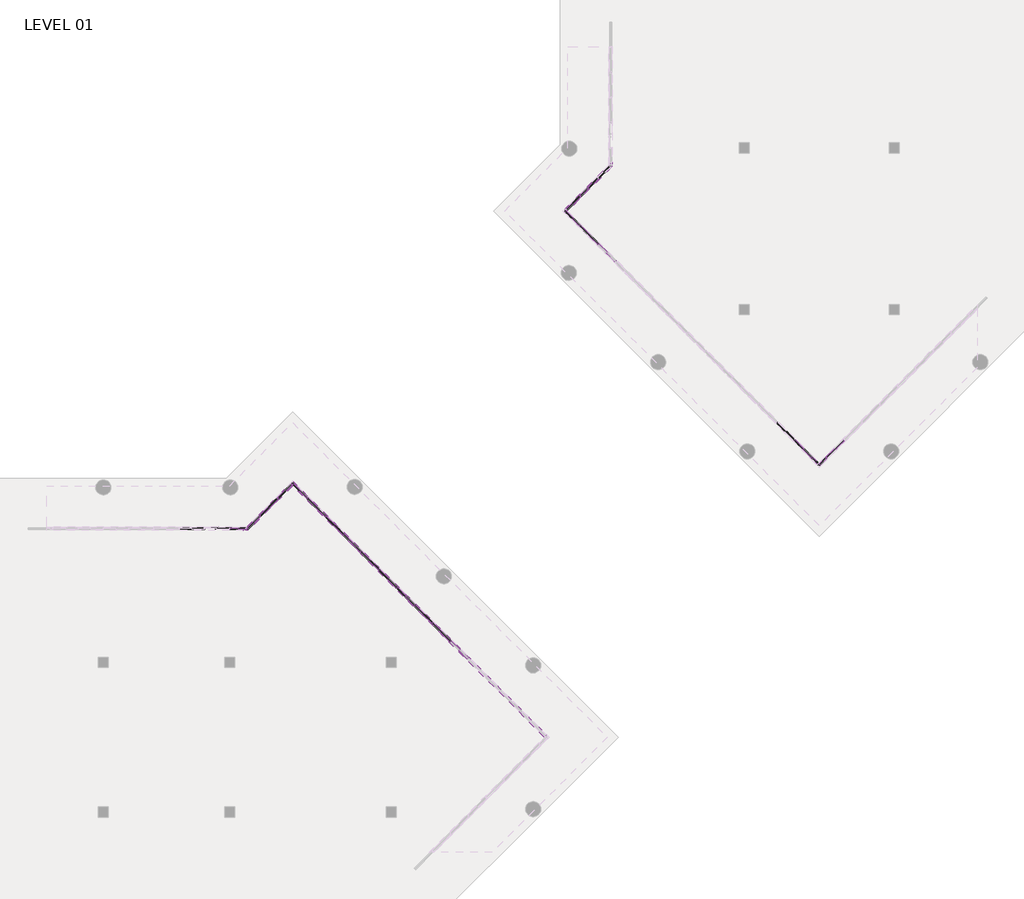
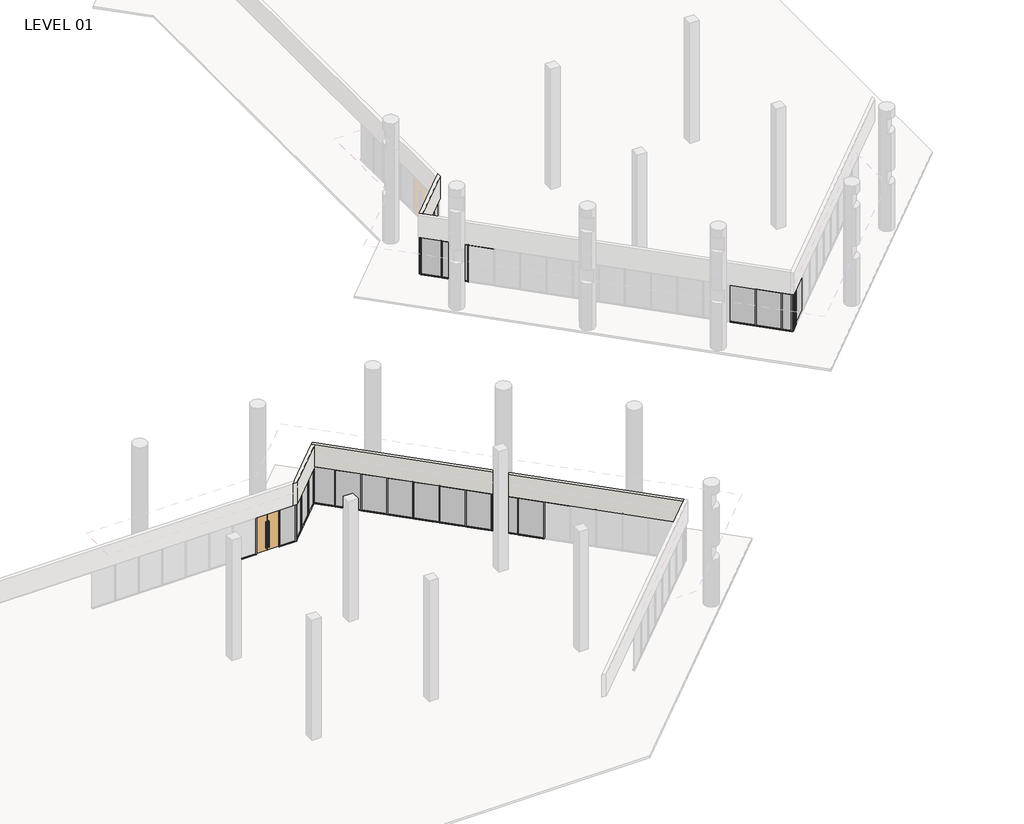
# One storey, part 8 of 24: 77 members, 24 plates, 3 walls, 1 door.
"""IFC4 building model written with IfcOpenShell, lengths in millimetres."""

from ifc_helpers import new_model, si_unit, origin, place, context, project, spatial, faceted_brep, transform, mapped, element, save
from components import curtain_wall_dbl_glass_curtain_wall_dbl_glass_5292c49e, member_5247f267, member_ed5eb8ce, member_1b18ecbc, member_57f2eb73, member_e44af9ab, member_800970d4, member_79e7b9d8, member_b8d22739, member_76371e1d, member_71e516ba, plate_ce959b8d, plate_67294edd, plate_474de82a, plate_87d7c655, plate_43a54168, plate_e0bd23ee, plate_4e8ae714, plate_46a4c48d, plate_9188e7fd, plate_7efc74f4

model = new_model("IFC4")

# Units and contexts
model_context = context("Model", 3, world=origin())
ifc_project = project(units=[si_unit("LENGTHUNIT", "METRE", prefix="MILLI")], contexts=[model_context])

# Site, building, storey
site = spatial("IfcSite", under=ifc_project)
building = spatial("IfcBuilding", under=site)
storey = spatial("IfcBuildingStorey", under=building, Name="LEVEL 01", Elevation=0.0)

# Door
placement = place(None, origin())
curtain_wall_dbl_glass_curtain_wall_dbl_glass_shape = curtain_wall_dbl_glass_curtain_wall_dbl_glass_5292c49e(model_context)
element("IfcDoor", 1, ObjectType="Curtain Wall Dbl Glass : Curtain Wall Dbl Glass", at=placement, inside=storey, context=model_context, shape_type="MappedRepresentation", body=[
    mapped(curtain_wall_dbl_glass_curtain_wall_dbl_glass_shape, transform((40493.95, 23089.2828721, 0.0), x_axis=(-1.0, 0.0, 0.0), y_axis=(0.0, -1.0, 0.0), z_axis=(0.0, 0.0, 1.0))),
])

# Members
member_shape = member_5247f267(model_context)
element("IfcMember", 2, ObjectType="Rectangular Mullion : 2\" x 4.5\" rectangular", at=placement, inside=storey, context=model_context, shape_type="MappedRepresentation", body=[
    mapped(member_shape, transform((54569.0750355, 16323.0133392, 0.0), x_axis=(0.0, 0.0, -1.0), y_axis=(0.7071067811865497, 0.7071067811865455, 0.0), z_axis=(0.7071067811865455, -0.7071067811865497, 0.0))),
])
element("IfcMember", 3, ObjectType="Rectangular Mullion : 2\" x 4.5\" rectangular", at=placement, inside=storey, context=model_context, shape_type="MappedRepresentation", body=[
    mapped(member_shape, transform((52414.1709117, 18477.917463, 0.0), x_axis=(0.0, 0.0, -1.0), y_axis=(0.707106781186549, 0.7071067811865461, 0.0), z_axis=(0.707106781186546, -0.7071067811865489, 0.0))),
])
element("IfcMember", 4, ObjectType="Rectangular Mullion : 2\" x 4.5\" rectangular", at=placement, inside=storey, context=model_context, shape_type="MappedRepresentation", body=[
    mapped(member_shape, transform((50258.9094426, 20633.1789321, 0.0), x_axis=(0.0, 0.0, -1.0), y_axis=(0.707106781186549, 0.7071067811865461, 0.0), z_axis=(0.7071067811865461, -0.707106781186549, 0.0))),
])
element("IfcMember", 5, ObjectType="Rectangular Mullion : 2\" x 4.5\" rectangular", at=placement, inside=storey, context=model_context, shape_type="MappedRepresentation", body=[
    mapped(member_shape, transform((48103.6479736, 22788.4404011, 0.0), x_axis=(0.0, 0.0, -1.0), y_axis=(0.7071067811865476, 0.7071067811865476, 0.0), z_axis=(0.7071067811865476, -0.7071067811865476, 0.0))),
])
element("IfcMember", 6, ObjectType="Rectangular Mullion : 2\" x 4.5\" rectangular", at=placement, inside=storey, context=model_context, shape_type="MappedRepresentation", body=[
    mapped(member_shape, transform((47026.0172391, 23866.0711357, 0.0), x_axis=(0.0, 0.0, -1.0), y_axis=(0.7071067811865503, 0.7071067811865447, 0.0), z_axis=(0.7071067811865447, -0.7071067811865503, 0.0))),
])
element("IfcMember", 7, ObjectType="Rectangular Mullion : 2\" x 4.5\" rectangular", at=placement, inside=storey, context=model_context, shape_type="MappedRepresentation", body=[
    mapped(member_shape, transform((51336.5401772, 19555.5481975, 0.0), x_axis=(0.0, 0.0, -1.0), y_axis=(0.707106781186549, 0.7071067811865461, 0.0), z_axis=(0.707106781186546, -0.7071067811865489, 0.0))),
])
element("IfcMember", 8, ObjectType="Rectangular Mullion : 2\" x 4.5\" rectangular", at=placement, inside=storey, context=model_context, shape_type="MappedRepresentation", body=[
    mapped(member_shape, transform((49181.2787081, 21710.8096666, 0.0), x_axis=(0.0, 0.0, -1.0), y_axis=(0.7071067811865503, 0.7071067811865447, 0.0), z_axis=(0.7071067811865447, -0.7071067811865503, 0.0))),
])
element("IfcMember", 9, ObjectType="Rectangular Mullion : 2\" x 4.5\" rectangular", at=placement, inside=storey, context=model_context, shape_type="MappedRepresentation", body=[
    mapped(member_shape, transform((44147.5963619, 24907.7847366, 0.0), x_axis=(0.0, 0.0, -1.0), y_axis=(-0.7071067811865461, 0.7071067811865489, 0.0), z_axis=(0.7071067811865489, 0.7071067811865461, 0.0))),
])
element("IfcMember", 10, ObjectType="Rectangular Mullion : 2\" x 4.5\" rectangular", at=placement, inside=storey, context=model_context, shape_type="MappedRepresentation", body=[
    mapped(member_shape, transform((39706.55, 23089.2828721, 0.0), x_axis=(0.0, 0.0, -1.0), y_axis=(0.0, 1.0, 0.0), z_axis=(1.0, 0.0, 0.0))),
])
element("IfcMember", 11, ObjectType="Rectangular Mullion : 2\" x 4.5\" rectangular", at=placement, inside=storey, context=model_context, shape_type="MappedRepresentation", body=[
    mapped(member_shape, transform((54604.99606, 16287.0923148, 2590.8), x_axis=(0.0, 0.0, 1.0), y_axis=(0.707106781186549, 0.7071067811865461, 0.0), z_axis=(-0.707106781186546, 0.7071067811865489, 0.0))),
])
element("IfcMember", 12, ObjectType="Rectangular Mullion : 2\" x 4.5\" rectangular", at=placement, inside=storey, context=model_context, shape_type="MappedRepresentation", body=[
    mapped(member_shape, transform((50294.8304671, 20597.2579076, 2590.8), x_axis=(0.0, 0.0, 1.0), y_axis=(0.7071067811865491, 0.707106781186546, 0.0), z_axis=(-0.707106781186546, 0.7071067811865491, 0.0))),
])
element("IfcMember", 13, ObjectType="Rectangular Mullion : 2\" x 4.5\" rectangular", at=placement, inside=storey, context=model_context, shape_type="MappedRepresentation", body=[
    mapped(member_shape, transform((48139.5689981, 22752.5193766, 2590.8), x_axis=(0.0, 0.0, 1.0), y_axis=(0.707106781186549, 0.7071067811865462, 0.0), z_axis=(-0.7071067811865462, 0.707106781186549, 0.0))),
])
element("IfcMember", 14, ObjectType="Rectangular Mullion : 2\" x 4.5\" rectangular", at=placement, inside=storey, context=model_context, shape_type="MappedRepresentation", body=[
    mapped(member_shape, transform((43105.8866519, 23866.0750266, 2590.8), x_axis=(0.0, 0.0, 1.0), y_axis=(-0.7071067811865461, 0.707106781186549, 0.0), z_axis=(-0.7071067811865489, -0.707106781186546, 0.0))),
])
element("IfcMember", 15, ObjectType="Rectangular Mullion : 2\" x 4.5\" rectangular", at=placement, inside=storey, context=model_context, shape_type="MappedRepresentation", body=[
    mapped(member_shape, transform((47061.9382635, 23830.1501112, 2590.8), x_axis=(0.0, 0.0, 1.0), y_axis=(0.7071067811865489, 0.7071067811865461, 0.0), z_axis=(-0.7071067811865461, 0.7071067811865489, 0.0))),
])
element("IfcMember", 16, ObjectType="Rectangular Mullion : 2\" x 4.5\" rectangular", at=placement, inside=storey, context=model_context, shape_type="MappedRepresentation", body=[
    mapped(member_shape, transform((45984.307529, 24907.7808457, 2590.8), x_axis=(0.0, 0.0, 1.0), y_axis=(0.7071067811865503, 0.7071067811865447, 0.0), z_axis=(-0.7071067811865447, 0.7071067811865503, 0.0))),
])
element("IfcMember", 17, ObjectType="Rectangular Mullion : 2\" x 4.5\" rectangular", at=placement, inside=storey, context=model_context, shape_type="MappedRepresentation", body=[
    mapped(member_shape, transform((53527.3653254, 17364.7230493, 2590.8), x_axis=(0.0, 0.0, 1.0), y_axis=(0.707106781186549, 0.7071067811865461, 0.0), z_axis=(-0.707106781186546, 0.7071067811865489, 0.0))),
])
element("IfcMember", 18, ObjectType="Rectangular Mullion : 2\" x 4.5\" rectangular", at=placement, inside=storey, context=model_context, shape_type="MappedRepresentation", body=[
    mapped(member_shape, transform((51372.4612017, 19519.6271731, 2590.8), x_axis=(0.0, 0.0, 1.0), y_axis=(0.7071067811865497, 0.7071067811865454, 0.0), z_axis=(-0.7071067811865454, 0.7071067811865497, 0.0))),
])
element("IfcMember", 19, ObjectType="Rectangular Mullion : 2\" x 4.5\" rectangular", at=placement, inside=storey, context=model_context, shape_type="MappedRepresentation", body=[
    mapped(member_shape, transform((49217.1997326, 21674.8886421, 2590.8), x_axis=(0.0, 0.0, 1.0), y_axis=(0.7071067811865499, 0.7071067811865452, 0.0), z_axis=(-0.7071067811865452, 0.7071067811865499, 0.0))),
])
member_2_shape = member_ed5eb8ce(model_context)
element("IfcMember", 20, ObjectType="Rectangular Mullion : 2\" x 4.5\" rectangular", at=placement, inside=storey, context=model_context, shape_type="MappedRepresentation", body=[
    mapped(member_2_shape, transform((42365.0155219, 23125.2038966, 2590.8), x_axis=(0.0, 0.0, 1.0), y_axis=(-0.7071067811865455, 0.7071067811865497, 0.0), z_axis=(-0.7071067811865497, -0.7071067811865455, 0.0))),
])
element("IfcMember", 21, ObjectType="Rectangular Mullion : 2\" x 4.5\" rectangular", at=placement, inside=storey, context=model_context, shape_type="MappedRepresentation", body=[
    mapped(member_2_shape, transform((41281.35, 23089.2828721, 2590.8), x_axis=(0.0, 0.0, 1.0), y_axis=(0.0, 1.0, 0.0), z_axis=(-1.0, 0.0, 0.0))),
])
element("IfcMember", 22, ObjectType="Rectangular Mullion : 2\" x 4.5\" rectangular", at=placement, inside=storey, context=model_context, shape_type="MappedRepresentation", body=[
    mapped(member_2_shape, transform((43069.9656274, 23830.1540021, 0.0), x_axis=(0.0, 0.0, -1.0), y_axis=(-0.7071067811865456, 0.7071067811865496, 0.0), z_axis=(0.7071067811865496, 0.7071067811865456, 0.0))),
])
element("IfcMember", 23, ObjectType="Rectangular Mullion : 2\" x 4.5\" rectangular", at=placement, inside=storey, context=model_context, shape_type="MappedRepresentation", body=[
    mapped(member_2_shape, transform((42278.2944974, 23089.2828721, 0.0), x_axis=(0.0, 0.0, -1.0), y_axis=(0.0, 1.0, 0.0), z_axis=(1.0, 0.0, 0.0))),
])
member_3_shape = member_1b18ecbc(model_context)
element("IfcMember", 24, ObjectType="Rectangular Mullion : 2\" x 4.5\" rectangular", at=placement, inside=storey, context=model_context, shape_type="MappedRepresentation", body=[
    mapped(member_3_shape, transform((45101.8710245, 25790.2173502, 2590.8), x_axis=(0.0, 0.0, 1.0), y_axis=(0.7071067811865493, 0.7071067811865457, 0.0), z_axis=(-0.7071067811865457, 0.7071067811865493, 0.0))),
])
element("IfcMember", 25, ObjectType="Rectangular Mullion : 2\" x 4.5\" rectangular", at=placement, inside=storey, context=model_context, shape_type="MappedRepresentation", body=[
    mapped(member_3_shape, transform((44183.5173864, 24943.7057611, 2590.8), x_axis=(0.0, 0.0, 1.0), y_axis=(-0.7071067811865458, 0.7071067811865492, 0.0), z_axis=(-0.7071067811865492, -0.7071067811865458, 0.0))),
])
element("IfcMember", 26, ObjectType="Rectangular Mullion : 2\" x 4.5\" rectangular", at=placement, inside=storey, context=model_context, shape_type="MappedRepresentation", body=[
    mapped(member_3_shape, transform((45030.0289755, 25790.2173502, 0.0), x_axis=(0.0, 0.0, -1.0), y_axis=(-0.7071067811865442, 0.7071067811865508, 0.0), z_axis=(0.7071067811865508, 0.7071067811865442, 0.0))),
])
element("IfcMember", 27, ObjectType="Rectangular Mullion : 2\" x 4.5\" rectangular", at=placement, inside=storey, context=model_context, shape_type="MappedRepresentation", body=[
    mapped(member_3_shape, transform((45948.3865045, 24943.7018702, 0.0), x_axis=(0.0, 0.0, -1.0), y_axis=(0.7071067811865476, 0.7071067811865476, 0.0), z_axis=(0.7071067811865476, -0.7071067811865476, 0.0))),
])
member_4_shape = member_57f2eb73(model_context)
element("IfcMember", 28, ObjectType="Rectangular Mullion : 2\" x 4.5\" rectangular", at=placement, inside=storey, context=model_context, shape_type="MappedRepresentation", body=[
    mapped(member_4_shape, transform((52450.0919362, 18441.9964385, 2590.8), x_axis=(0.0, 0.0, 1.0), y_axis=(0.7071067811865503, 0.7071067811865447, 0.0), z_axis=(-0.7071067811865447, 0.7071067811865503, 0.0))),
])
element("IfcMember", 29, ObjectType="Rectangular Mullion : 2\" x 4.5\" rectangular", at=placement, inside=storey, context=model_context, shape_type="MappedRepresentation", body=[
    mapped(member_4_shape, transform((53491.4443009, 17400.6440738, 0.0), x_axis=(0.0, 0.0, -1.0), y_axis=(0.7071067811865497, 0.7071067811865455, 0.0), z_axis=(0.7071067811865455, -0.7071067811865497, 0.0))),
])
member_5_shape = member_e44af9ab(model_context)
element("IfcMember", 30, ObjectType="Rectangular Mullion : 2\" x 4.5\" rectangular", at=placement, inside=storey, context=model_context, shape_type="MappedRepresentation", body=[
    mapped(member_5_shape, transform((54587.0355477, 16305.052827, 0.0), x_axis=(-0.7071067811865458, 0.7071067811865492, 0.0), y_axis=(0.7071067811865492, 0.7071067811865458, 0.0), z_axis=(0.0, 0.0, -1.0))),
])
element("IfcMember", 31, ObjectType="Rectangular Mullion : 2\" x 4.5\" rectangular", at=placement, inside=storey, context=model_context, shape_type="MappedRepresentation", body=[
    mapped(member_5_shape, transform((52432.1314239, 18459.9569508, 0.0), x_axis=(-0.7071067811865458, 0.7071067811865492, 0.0), y_axis=(0.7071067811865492, 0.7071067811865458, 0.0), z_axis=(0.0, 0.0, -1.0))),
])
element("IfcMember", 32, ObjectType="Rectangular Mullion : 2\" x 4.5\" rectangular", at=placement, inside=storey, context=model_context, shape_type="MappedRepresentation", body=[
    mapped(member_5_shape, transform((50276.8699549, 20615.2184198, 0.0), x_axis=(-0.7071067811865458, 0.7071067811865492, 0.0), y_axis=(0.7071067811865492, 0.7071067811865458, 0.0), z_axis=(0.0, 0.0, -1.0))),
])
element("IfcMember", 33, ObjectType="Rectangular Mullion : 2\" x 4.5\" rectangular", at=placement, inside=storey, context=model_context, shape_type="MappedRepresentation", body=[
    mapped(member_5_shape, transform((48121.6084858, 22770.4798889, 0.0), x_axis=(-0.7071067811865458, 0.7071067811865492, 0.0), y_axis=(0.7071067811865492, 0.7071067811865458, 0.0), z_axis=(0.0, 0.0, -1.0))),
])
element("IfcMember", 34, ObjectType="Rectangular Mullion : 2\" x 4.5\" rectangular", at=placement, inside=storey, context=model_context, shape_type="MappedRepresentation", body=[
    mapped(member_5_shape, transform((43087.9261396, 23848.1145143, 0.0), x_axis=(-0.7071067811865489, -0.7071067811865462, 0.0), y_axis=(-0.7071067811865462, 0.7071067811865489, 0.0), z_axis=(0.0, 0.0, -1.0))),
])
element("IfcMember", 35, ObjectType="Rectangular Mullion : 2\" x 4.5\" rectangular", at=placement, inside=storey, context=model_context, shape_type="MappedRepresentation", body=[
    mapped(member_5_shape, transform((47043.9777513, 23848.1106234, 0.0), x_axis=(-0.7071067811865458, 0.7071067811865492, 0.0), y_axis=(0.7071067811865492, 0.7071067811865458, 0.0), z_axis=(0.0, 0.0, -1.0))),
])
element("IfcMember", 36, ObjectType="Rectangular Mullion : 2\" x 4.5\" rectangular", at=placement, inside=storey, context=model_context, shape_type="MappedRepresentation", body=[
    mapped(member_5_shape, transform((45966.3470168, 24925.7413579, 0.0), x_axis=(-0.7071067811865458, 0.7071067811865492, 0.0), y_axis=(0.7071067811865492, 0.7071067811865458, 0.0), z_axis=(0.0, 0.0, -1.0))),
])
element("IfcMember", 37, ObjectType="Rectangular Mullion : 2\" x 4.5\" rectangular", at=placement, inside=storey, context=model_context, shape_type="MappedRepresentation", body=[
    mapped(member_5_shape, transform((53509.4048132, 17382.6835615, 0.0), x_axis=(-0.7071067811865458, 0.7071067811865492, 0.0), y_axis=(0.7071067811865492, 0.7071067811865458, 0.0), z_axis=(0.0, 0.0, -1.0))),
])
element("IfcMember", 38, ObjectType="Rectangular Mullion : 2\" x 4.5\" rectangular", at=placement, inside=storey, context=model_context, shape_type="MappedRepresentation", body=[
    mapped(member_5_shape, transform((51354.5006894, 19537.5876853, 0.0), x_axis=(-0.7071067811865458, 0.7071067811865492, 0.0), y_axis=(0.7071067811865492, 0.7071067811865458, 0.0), z_axis=(0.0, 0.0, -1.0))),
])
element("IfcMember", 39, ObjectType="Rectangular Mullion : 2\" x 4.5\" rectangular", at=placement, inside=storey, context=model_context, shape_type="MappedRepresentation", body=[
    mapped(member_5_shape, transform((49199.2392204, 21692.8491544, 0.0), x_axis=(-0.7071067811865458, 0.7071067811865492, 0.0), y_axis=(0.7071067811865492, 0.7071067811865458, 0.0), z_axis=(0.0, 0.0, -1.0))),
])
element("IfcMember", 40, ObjectType="Rectangular Mullion : 2\" x 4.5\" rectangular", at=placement, inside=storey, context=model_context, shape_type="MappedRepresentation", body=[
    mapped(member_5_shape, transform((44165.5568742, 24925.7452489, 0.0), x_axis=(-0.7071067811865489, -0.7071067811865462, 0.0), y_axis=(-0.7071067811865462, 0.7071067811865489, 0.0), z_axis=(0.0, 0.0, -1.0))),
])
element("IfcMember", 41, ObjectType="Rectangular Mullion : 2\" x 4.5\" rectangular", at=placement, inside=storey, context=model_context, shape_type="MappedRepresentation", body=[
    mapped(member_5_shape, transform((41255.95, 23089.2828721, 0.0), x_axis=(-1.0, 0.0, 0.0), y_axis=(0.0, 1.0, 0.0), z_axis=(0.0, 0.0, -1.0))),
])
element("IfcMember", 42, ObjectType="Rectangular Mullion : 2\" x 4.5\" rectangular", at=placement, inside=storey, context=model_context, shape_type="MappedRepresentation", body=[
    mapped(member_5_shape, transform((39731.95, 23089.2828721, 0.0), x_axis=(-1.0, 0.0, 0.0), y_axis=(0.0, 1.0, 0.0), z_axis=(0.0, 0.0, -1.0))),
])
member_6_shape = member_800970d4(model_context)
element("IfcMember", 43, ObjectType="Rectangular Mullion : 2\" x 4.5\" rectangular", at=placement, inside=storey, context=model_context, shape_type="MappedRepresentation", body=[
    mapped(member_6_shape, transform((45065.95, 25826.1383747, 0.0), x_axis=(-0.7071067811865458, 0.7071067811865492, 0.0), y_axis=(0.7071067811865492, 0.7071067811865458, 0.0), z_axis=(0.0, 0.0, -1.0))),
])
element("IfcMember", 44, ObjectType="Rectangular Mullion : 2\" x 4.5\" rectangular", at=placement, inside=storey, context=model_context, shape_type="MappedRepresentation", body=[
    mapped(member_6_shape, transform((42329.0944974, 23089.2828721, 0.0), x_axis=(-0.7071067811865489, -0.7071067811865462, 0.0), y_axis=(-0.7071067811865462, 0.7071067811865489, 0.0), z_axis=(0.0, 0.0, -1.0))),
])
element("IfcMember", 45, ObjectType="Rectangular Mullion : 2\" x 4.5\" rectangular", at=placement, inside=storey, context=model_context, shape_type="MappedRepresentation", body=[
    mapped(member_6_shape, transform((45065.95, 25826.1383747, 2590.8), x_axis=(0.7071067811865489, 0.7071067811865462, 0.0), y_axis=(-0.7071067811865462, 0.7071067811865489, 0.0), z_axis=(0.0, 0.0, 1.0))),
])
element("IfcMember", 46, ObjectType="Rectangular Mullion : 2\" x 4.5\" rectangular", at=placement, inside=storey, context=model_context, shape_type="MappedRepresentation", body=[
    mapped(member_6_shape, transform((42329.0944974, 23089.2828721, 2590.8), x_axis=(1.0, 0.0, 0.0), y_axis=(0.0, 1.0, 0.0), z_axis=(0.0, 0.0, 1.0))),
])
element("IfcMember", 47, ObjectType="Rectangular Mullion : 2\" x 4.5\" rectangular", at=placement, inside=storey, context=model_context, shape_type="MappedRepresentation", body=[
    mapped(member_shape, transform((75367.3482119, 28428.3985904, 2590.8), x_axis=(0.0, 0.0, 1.0), y_axis=(0.7071067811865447, 0.7071067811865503, 0.0), z_axis=(-0.7071067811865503, 0.7071067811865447, 0.0))),
])
element("IfcMember", 48, ObjectType="Rectangular Mullion : 2\" x 4.5\" rectangular", at=placement, inside=storey, context=model_context, shape_type="MappedRepresentation", body=[
    mapped(member_shape, transform((63513.7674773, 40281.979325, 2590.8), x_axis=(0.0, 0.0, 1.0), y_axis=(0.7071067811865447, 0.7071067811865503, 0.0), z_axis=(-0.7071067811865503, 0.7071067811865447, 0.0))),
])
element("IfcMember", 49, ObjectType="Rectangular Mullion : 2\" x 4.5\" rectangular", at=placement, inside=storey, context=model_context, shape_type="MappedRepresentation", body=[
    mapped(member_shape, transform((62436.1367428, 41359.6100595, 2590.8), x_axis=(0.0, 0.0, 1.0), y_axis=(0.7071067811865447, 0.7071067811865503, 0.0), z_axis=(-0.7071067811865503, 0.7071067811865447, 0.0))),
])
element("IfcMember", 50, ObjectType="Rectangular Mullion : 2\" x 4.5\" rectangular", at=placement, inside=storey, context=model_context, shape_type="MappedRepresentation", body=[
    mapped(member_shape, transform((77290.4828382, 27386.5102078, 2590.8), x_axis=(0.0, 0.0, 1.0), y_axis=(-0.7071067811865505, 0.7071067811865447, 0.0), z_axis=(-0.7071067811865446, -0.7071067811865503, 0.0))),
])
element("IfcMember", 51, ObjectType="Rectangular Mullion : 2\" x 4.5\" rectangular", at=placement, inside=storey, context=model_context, shape_type="MappedRepresentation", body=[
    mapped(member_2_shape, transform((63513.7635864, 44273.9519611, 0.0), x_axis=(0.0, 0.0, -1.0), y_axis=(0.7071067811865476, -0.7071067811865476, 0.0), z_axis=(-0.7071067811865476, -0.7071067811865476, 0.0))),
])
element("IfcMember", 52, ObjectType="Rectangular Mullion : 2\" x 4.5\" rectangular", at=placement, inside=storey, context=model_context, shape_type="MappedRepresentation", body=[
    mapped(member_shape, transform((75331.4271874, 28464.3196149, 0.0), x_axis=(0.0, 0.0, -1.0), y_axis=(0.7071067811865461, 0.7071067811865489, 0.0), z_axis=(0.7071067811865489, -0.7071067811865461, 0.0))),
])
element("IfcMember", 53, ObjectType="Rectangular Mullion : 2\" x 4.5\" rectangular", at=placement, inside=storey, context=model_context, shape_type="MappedRepresentation", body=[
    mapped(member_shape, transform((63477.8464529, 40317.9003495, 0.0), x_axis=(0.0, 0.0, -1.0), y_axis=(0.7071067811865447, 0.7071067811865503, 0.0), z_axis=(0.7071067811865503, -0.7071067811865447, 0.0))),
])
element("IfcMember", 54, ObjectType="Rectangular Mullion : 2\" x 4.5\" rectangular", at=placement, inside=storey, context=model_context, shape_type="MappedRepresentation", body=[
    mapped(member_shape, transform((76409.0579219, 27386.6888804, 0.0), x_axis=(0.0, 0.0, -1.0), y_axis=(0.7071067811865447, 0.7071067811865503, 0.0), z_axis=(0.7071067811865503, -0.7071067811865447, 0.0))),
])
element("IfcMember", 55, ObjectType="Rectangular Mullion : 2\" x 4.5\" rectangular", at=placement, inside=storey, context=model_context, shape_type="MappedRepresentation", body=[
    mapped(member_5_shape, transform((75349.3876996, 28446.3591027, 0.0), x_axis=(-0.7071067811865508, 0.7071067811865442, 0.0), y_axis=(0.7071067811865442, 0.7071067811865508, 0.0), z_axis=(0.0, 0.0, -1.0))),
])
element("IfcMember", 56, ObjectType="Rectangular Mullion : 2\" x 4.5\" rectangular", at=placement, inside=storey, context=model_context, shape_type="MappedRepresentation", body=[
    mapped(member_5_shape, transform((63495.8030742, 44255.9914489, 0.0), x_axis=(0.7071067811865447, 0.7071067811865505, 0.0), y_axis=(0.7071067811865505, -0.7071067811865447, 0.0), z_axis=(0.0, 0.0, -1.0))),
])
element("IfcMember", 57, ObjectType="Rectangular Mullion : 2\" x 4.5\" rectangular", at=placement, inside=storey, context=model_context, shape_type="MappedRepresentation", body=[
    mapped(member_5_shape, transform((63495.8069651, 40299.9398372, 0.0), x_axis=(-0.7071067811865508, 0.7071067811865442, 0.0), y_axis=(0.7071067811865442, 0.7071067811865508, 0.0), z_axis=(0.0, 0.0, -1.0))),
])
element("IfcMember", 58, ObjectType="Rectangular Mullion : 2\" x 4.5\" rectangular", at=placement, inside=storey, context=model_context, shape_type="MappedRepresentation", body=[
    mapped(member_5_shape, transform((62418.1762306, 41377.5705717, 0.0), x_axis=(-0.7071067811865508, 0.7071067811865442, 0.0), y_axis=(0.7071067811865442, 0.7071067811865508, 0.0), z_axis=(0.0, 0.0, -1.0))),
])
element("IfcMember", 59, ObjectType="Rectangular Mullion : 2\" x 4.5\" rectangular", at=placement, inside=storey, context=model_context, shape_type="MappedRepresentation", body=[
    mapped(member_5_shape, transform((76427.0184342, 27368.7283682, 0.0), x_axis=(-0.7071067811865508, 0.7071067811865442, 0.0), y_axis=(0.7071067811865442, 0.7071067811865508, 0.0), z_axis=(0.0, 0.0, -1.0))),
])
element("IfcMember", 60, ObjectType="Rectangular Mullion : 2\" x 4.5\" rectangular", at=placement, inside=storey, context=model_context, shape_type="MappedRepresentation", body=[
    mapped(member_5_shape, transform((77272.522326, 27368.5496955, 0.0), x_axis=(-0.7071067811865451, -0.7071067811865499, 0.0), y_axis=(-0.7071067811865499, 0.7071067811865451, 0.0), z_axis=(0.0, 0.0, -1.0))),
])
element("IfcMember", 61, ObjectType="Rectangular Mullion : 2\" x 4.5\" rectangular", at=placement, inside=storey, context=model_context, shape_type="MappedRepresentation", body=[
    mapped(member_5_shape, transform((62418.1723396, 43178.3607144, 0.0), x_axis=(0.7071067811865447, 0.7071067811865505, 0.0), y_axis=(0.7071067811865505, -0.7071067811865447, 0.0), z_axis=(0.0, 0.0, -1.0))),
])
element("IfcMember", 62, ObjectType="Rectangular Mullion : 2\" x 4.5\" rectangular", at=placement, inside=storey, context=model_context, shape_type="MappedRepresentation", body=[
    mapped(member_6_shape, transform((76849.8597164, 26945.8870859, 0.0), x_axis=(-0.7071067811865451, -0.7071067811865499, 0.0), y_axis=(-0.7071067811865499, 0.7071067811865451, 0.0), z_axis=(0.0, 0.0, -1.0))),
])
element("IfcMember", 63, ObjectType="Rectangular Mullion : 2\" x 4.5\" rectangular", at=placement, inside=storey, context=model_context, shape_type="MappedRepresentation", body=[
    mapped(member_6_shape, transform((61517.7792138, 42277.9675885, 0.0), x_axis=(-0.7071067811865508, 0.7071067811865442, 0.0), y_axis=(0.7071067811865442, 0.7071067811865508, 0.0), z_axis=(0.0, 0.0, -1.0))),
])
element("IfcMember", 64, ObjectType="Rectangular Mullion : 2\" x 4.5\" rectangular", at=placement, inside=storey, context=model_context, shape_type="MappedRepresentation", body=[
    mapped(member_6_shape, transform((76849.8597164, 26945.8870859, 2590.8), x_axis=(0.7071067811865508, -0.7071067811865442, 0.0), y_axis=(0.7071067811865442, 0.7071067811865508, 0.0), z_axis=(0.0, 0.0, 1.0))),
])
element("IfcMember", 65, ObjectType="Rectangular Mullion : 2\" x 4.5\" rectangular", at=placement, inside=storey, context=model_context, shape_type="MappedRepresentation", body=[
    mapped(member_6_shape, transform((61517.7792138, 42277.9675885, 2590.8), x_axis=(-0.7071067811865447, -0.7071067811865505, 0.0), y_axis=(0.7071067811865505, -0.7071067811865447, 0.0), z_axis=(0.0, 0.0, 1.0))),
])
member_7_shape = member_79e7b9d8(model_context)
element("IfcMember", 66, ObjectType="Rectangular Mullion : 2\" x 4.5\" rectangular", at=placement, inside=storey, context=model_context, shape_type="MappedRepresentation", body=[
    mapped(member_7_shape, transform((76885.7807409, 26981.8081104, 2590.8), x_axis=(0.0, 0.0, 1.0), y_axis=(-0.7071067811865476, 0.7071067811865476, 0.0), z_axis=(-0.7071067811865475, -0.7071067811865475, 0.0))),
])
element("IfcMember", 67, ObjectType="Rectangular Mullion : 2\" x 4.5\" rectangular", at=placement, inside=storey, context=model_context, shape_type="MappedRepresentation", body=[
    mapped(member_7_shape, transform((77254.5618138, 27350.5891833, 0.0), x_axis=(0.0, 0.0, -1.0), y_axis=(-0.7071067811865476, 0.7071067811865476, 0.0), z_axis=(0.7071067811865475, 0.7071067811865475, 0.0))),
])
element("IfcMember", 68, ObjectType="Rectangular Mullion : 2\" x 4.5\" rectangular", at=placement, inside=storey, context=model_context, shape_type="MappedRepresentation", body=[
    mapped(member_3_shape, transform((61553.7002383, 42242.046564, 2590.8), x_axis=(0.0, 0.0, 1.0), y_axis=(0.7071067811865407, 0.7071067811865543, 0.0), z_axis=(-0.7071067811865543, 0.7071067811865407, 0.0))),
])
element("IfcMember", 69, ObjectType="Rectangular Mullion : 2\" x 4.5\" rectangular", at=placement, inside=storey, context=model_context, shape_type="MappedRepresentation", body=[
    mapped(member_3_shape, transform((62400.2118274, 43160.4002021, 2590.8), x_axis=(0.0, 0.0, 1.0), y_axis=(0.7071067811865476, -0.7071067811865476, 0.0), z_axis=(0.7071067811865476, 0.7071067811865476, 0.0))),
])
member_8_shape = member_b8d22739(model_context)
element("IfcMember", 70, ObjectType="Rectangular Mullion : 2\" x 4.5\" rectangular", at=placement, inside=storey, context=model_context, shape_type="MappedRepresentation", body=[
    mapped(member_8_shape, transform((76813.9386919, 26981.8081104, 0.0), x_axis=(0.0, 0.0, -1.0), y_axis=(0.7071067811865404, 0.7071067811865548, 0.0), z_axis=(0.7071067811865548, -0.7071067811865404, 0.0))),
])
element("IfcMember", 71, ObjectType="Rectangular Mullion : 2\" x 4.5\" rectangular", at=placement, inside=storey, context=model_context, shape_type="MappedRepresentation", body=[
    mapped(member_3_shape, transform((61553.7002383, 42313.888613, 0.0), x_axis=(0.0, 0.0, -1.0), y_axis=(0.7071067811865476, -0.7071067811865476, 0.0), z_axis=(-0.7071067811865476, -0.7071067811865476, 0.0))),
])
element("IfcMember", 72, ObjectType="Rectangular Mullion : 2\" x 4.5\" rectangular", at=placement, inside=storey, context=model_context, shape_type="MappedRepresentation", body=[
    mapped(member_3_shape, transform((62400.2157183, 41395.531084, 0.0), x_axis=(0.0, 0.0, -1.0), y_axis=(0.7071067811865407, 0.7071067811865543, 0.0), z_axis=(0.7071067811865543, -0.7071067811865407, 0.0))),
])
element("IfcMember", 73, ObjectType="Rectangular Mullion : 2\" x 4.5\" rectangular", at=placement, inside=storey, context=model_context, shape_type="MappedRepresentation", body=[
    mapped(member_8_shape, transform((76444.9789464, 27350.7678559, 2590.8), x_axis=(0.0, 0.0, 1.0), y_axis=(0.7071067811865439, 0.7071067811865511, 0.0), z_axis=(-0.7071067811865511, 0.7071067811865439, 0.0))),
])
member_9_shape = member_76371e1d(model_context)
element("IfcMember", 74, ObjectType="Rectangular Mullion : 2\" x 4.5\" rectangular", at=placement, inside=storey, context=model_context, shape_type="MappedRepresentation", body=[
    mapped(member_9_shape, transform((63477.8425619, 44238.0309367, 2590.8), x_axis=(0.0, 0.0, 1.0), y_axis=(0.7071067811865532, -0.7071067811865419, 0.0), z_axis=(0.7071067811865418, 0.7071067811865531, 0.0))),
])
member_10_shape = member_71e516ba(model_context)
element("IfcMember", 75, ObjectType="Rectangular Mullion : 2\" x 4.5\" rectangular", at=placement, inside=storey, context=model_context, shape_type="MappedRepresentation", body=[
    mapped(member_10_shape, transform((62436.1328519, 43196.3212266, 0.0), x_axis=(0.0, 0.0, -1.0), y_axis=(0.7071067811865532, -0.7071067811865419, 0.0), z_axis=(-0.7071067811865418, -0.7071067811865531, 0.0))),
])
element("IfcMember", 76, ObjectType="Rectangular Mullion : 2\" x 4.5\" rectangular", at=placement, inside=storey, context=model_context, shape_type="MappedRepresentation", body=[
    mapped(member_10_shape, transform((62868.2464529, 43628.4348276, 2590.8), x_axis=(0.0, 0.0, 1.0), y_axis=(0.707106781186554, -0.707106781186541, 0.0), z_axis=(0.707106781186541, 0.707106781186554, 0.0))),
])
element("IfcMember", 77, ObjectType="Rectangular Mullion : 2\" x 4.5\" rectangular", at=placement, inside=storey, context=model_context, shape_type="MappedRepresentation", body=[
    mapped(member_9_shape, transform((62904.1674773, 43664.3558521, 0.0), x_axis=(0.0, 0.0, -1.0), y_axis=(0.7071067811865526, -0.7071067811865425, 0.0), z_axis=(-0.7071067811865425, -0.7071067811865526, 0.0))),
])
element("IfcMember", 78, ObjectType="Rectangular Mullion : 2\" x 4.5\" rectangular", at=placement, inside=storey, context=model_context, shape_type="MappedRepresentation", body=[
    mapped(member_5_shape, transform((62886.2069651, 43646.3953398, 0.0), x_axis=(0.7071067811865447, 0.7071067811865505, 0.0), y_axis=(0.7071067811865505, -0.7071067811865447, 0.0), z_axis=(0.0, 0.0, -1.0))),
])

# Plates
plate_shape = plate_ce959b8d(model_context)
element("IfcPlate", 79, ObjectType="System Panel : 1/4\" Glass", at=placement, inside=storey, context=model_context, shape_type="MappedRepresentation", body=[
    mapped(plate_shape, transform((41779.8222487, 23089.2828721, 50.8), x_axis=(-1.0, 0.0, 0.0), y_axis=(0.0, -1.0, 0.0), z_axis=(0.0, 0.0, 1.0))),
])
plate_2_shape = plate_67294edd(model_context)
element("IfcPlate", 80, ObjectType="System Panel : 1/4\" Glass", at=placement, inside=storey, context=model_context, shape_type="MappedRepresentation", body=[
    mapped(plate_2_shape, transform((54048.2201805, 16843.8681943, 50.8), x_axis=(-0.7071067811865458, 0.7071067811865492, 0.0), y_axis=(-0.7071067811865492, -0.7071067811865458, 0.0), z_axis=(0.0, 0.0, 1.0))),
])
element("IfcPlate", 81, ObjectType="System Panel : 1/4\" Glass", at=placement, inside=storey, context=model_context, shape_type="MappedRepresentation", body=[
    mapped(plate_2_shape, transform((51893.3160567, 18998.772318, 50.8), x_axis=(-0.7071067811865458, 0.7071067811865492, 0.0), y_axis=(-0.7071067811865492, -0.7071067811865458, 0.0), z_axis=(0.0, 0.0, 1.0))),
])
element("IfcPlate", 82, ObjectType="System Panel : 1/4\" Glass", at=placement, inside=storey, context=model_context, shape_type="MappedRepresentation", body=[
    mapped(plate_2_shape, transform((49738.0545876, 21154.0337871, 50.8), x_axis=(-0.7071067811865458, 0.7071067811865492, 0.0), y_axis=(-0.7071067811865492, -0.7071067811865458, 0.0), z_axis=(0.0, 0.0, 1.0))),
])
element("IfcPlate", 83, ObjectType="System Panel : 1/4\" Glass", at=placement, inside=storey, context=model_context, shape_type="MappedRepresentation", body=[
    mapped(plate_2_shape, transform((47582.7931186, 23309.2952562, 50.8), x_axis=(-0.7071067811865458, 0.7071067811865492, 0.0), y_axis=(-0.7071067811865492, -0.7071067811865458, 0.0), z_axis=(0.0, 0.0, 1.0))),
])
element("IfcPlate", 84, ObjectType="System Panel : 1/4\" Glass", at=placement, inside=storey, context=model_context, shape_type="MappedRepresentation", body=[
    mapped(plate_2_shape, transform((46505.162384, 24386.9259907, 50.8), x_axis=(-0.7071067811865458, 0.7071067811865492, 0.0), y_axis=(-0.7071067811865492, -0.7071067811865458, 0.0), z_axis=(0.0, 0.0, 1.0))),
])
element("IfcPlate", 85, ObjectType="System Panel : 1/4\" Glass", at=placement, inside=storey, context=model_context, shape_type="MappedRepresentation", body=[
    mapped(plate_2_shape, transform((50815.6853222, 20076.4030526, 50.8), x_axis=(-0.7071067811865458, 0.7071067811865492, 0.0), y_axis=(-0.7071067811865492, -0.7071067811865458, 0.0), z_axis=(0.0, 0.0, 1.0))),
])
element("IfcPlate", 86, ObjectType="System Panel : 1/4\" Glass", at=placement, inside=storey, context=model_context, shape_type="MappedRepresentation", body=[
    mapped(plate_2_shape, transform((48660.4238531, 22231.6645216, 50.8), x_axis=(-0.7071067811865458, 0.7071067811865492, 0.0), y_axis=(-0.7071067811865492, -0.7071067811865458, 0.0), z_axis=(0.0, 0.0, 1.0))),
])
element("IfcPlate", 87, ObjectType="System Panel : 1/4\" Glass", at=placement, inside=storey, context=model_context, shape_type="MappedRepresentation", body=[
    mapped(plate_2_shape, transform((43626.7415069, 24386.9298816, 50.8), x_axis=(-0.7071067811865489, -0.7071067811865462, 0.0), y_axis=(0.7071067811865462, -0.7071067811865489, 0.0), z_axis=(0.0, 0.0, 1.0))),
])
plate_3_shape = plate_474de82a(model_context)
element("IfcPlate", 88, ObjectType="System Panel : 1/4\" Glass", at=placement, inside=storey, context=model_context, shape_type="MappedRepresentation", body=[
    mapped(plate_3_shape, transform((45525.1287645, 25366.9596102, 50.8), x_axis=(-0.7071067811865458, 0.7071067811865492, 0.0), y_axis=(-0.7071067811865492, -0.7071067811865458, 0.0), z_axis=(0.0, 0.0, 1.0))),
])
plate_4_shape = plate_87d7c655(model_context)
element("IfcPlate", 89, ObjectType="System Panel : 1/4\" Glass", at=placement, inside=storey, context=model_context, shape_type="MappedRepresentation", body=[
    mapped(plate_4_shape, transform((52970.7681186, 17921.3202562, 50.8), x_axis=(-0.7071067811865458, 0.7071067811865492, 0.0), y_axis=(-0.7071067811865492, -0.7071067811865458, 0.0), z_axis=(0.0, 0.0, 1.0))),
])
plate_5_shape = plate_43a54168(model_context)
element("IfcPlate", 90, ObjectType="System Panel : 1/4\" Glass", at=placement, inside=storey, context=model_context, shape_type="MappedRepresentation", body=[
    mapped(plate_5_shape, transform((42717.4905746, 23477.6789494, 50.8), x_axis=(-0.7071067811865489, -0.7071067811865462, 0.0), y_axis=(0.7071067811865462, -0.7071067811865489, 0.0), z_axis=(0.0, 0.0, 1.0))),
])
plate_6_shape = plate_e0bd23ee(model_context)
element("IfcPlate", 91, ObjectType="System Panel : 1/4\" Glass", at=placement, inside=storey, context=model_context, shape_type="MappedRepresentation", body=[
    mapped(plate_6_shape, transform((44606.773181, 25366.9615557, 50.8), x_axis=(-0.7071067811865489, -0.7071067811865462, 0.0), y_axis=(0.7071067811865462, -0.7071067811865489, 0.0), z_axis=(0.0, 0.0, 1.0))),
])
element("IfcPlate", 92, ObjectType="System Panel : 1/4\" Glass", at=placement, inside=storey, context=model_context, shape_type="MappedRepresentation", body=[
    mapped(plate_2_shape, transform((74810.5723324, 28985.17447, 50.8), x_axis=(-0.7071067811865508, 0.7071067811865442, 0.0), y_axis=(-0.7071067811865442, -0.7071067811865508, 0.0), z_axis=(0.0, 0.0, 1.0))),
])
element("IfcPlate", 93, ObjectType="System Panel : 1/4\" Glass", at=placement, inside=storey, context=model_context, shape_type="MappedRepresentation", body=[
    mapped(plate_2_shape, transform((62956.9915978, 40838.7552045, 50.8), x_axis=(-0.7071067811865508, 0.7071067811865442, 0.0), y_axis=(-0.7071067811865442, -0.7071067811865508, 0.0), z_axis=(0.0, 0.0, 1.0))),
])
element("IfcPlate", 94, ObjectType="System Panel : 1/4\" Glass", at=placement, inside=storey, context=model_context, shape_type="MappedRepresentation", body=[
    mapped(plate_2_shape, transform((77811.3376933, 27907.3650628, 50.8), x_axis=(-0.7071067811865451, -0.7071067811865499, 0.0), y_axis=(0.7071067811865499, -0.7071067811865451, 0.0), z_axis=(0.0, 0.0, 1.0))),
])
element("IfcPlate", 95, ObjectType="System Panel : 1/4\" Glass", at=placement, inside=storey, context=model_context, shape_type="MappedRepresentation", body=[
    mapped(plate_2_shape, transform((75888.2030669, 27907.5437354, 50.8), x_axis=(-0.7071067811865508, 0.7071067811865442, 0.0), y_axis=(-0.7071067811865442, -0.7071067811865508, 0.0), z_axis=(0.0, 0.0, 1.0))),
])
element("IfcPlate", 96, ObjectType="System Panel : 1/4\" Glass", at=placement, inside=storey, context=model_context, shape_type="MappedRepresentation", body=[
    mapped(plate_5_shape, transform((63866.2386392, 44626.4270139, 50.8), x_axis=(0.7071067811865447, 0.7071067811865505, 0.0), y_axis=(-0.7071067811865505, 0.7071067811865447, 0.0), z_axis=(0.0, 0.0, 1.0))),
])
plate_7_shape = plate_4e8ae714(model_context)
element("IfcPlate", 97, ObjectType="System Panel : 1/4\" Glass", at=placement, inside=storey, context=model_context, shape_type="MappedRepresentation", body=[
    mapped(plate_7_shape, transform((76629.4588192, 27166.2879832, 50.8), x_axis=(-0.7071067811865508, 0.7071067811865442, 0.0), y_axis=(-0.7071067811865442, -0.7071067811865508, 0.0), z_axis=(0.0, 0.0, 1.0))),
])
element("IfcPlate", 98, ObjectType="System Panel : 1/4\" Glass", at=placement, inside=storey, context=model_context, shape_type="MappedRepresentation", body=[
    mapped(plate_6_shape, transform((61976.9560328, 42737.1444076, 50.8), x_axis=(0.7071067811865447, 0.7071067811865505, 0.0), y_axis=(-0.7071067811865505, 0.7071067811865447, 0.0), z_axis=(0.0, 0.0, 1.0))),
])
element("IfcPlate", 99, ObjectType="System Panel : 1/4\" Glass", at=placement, inside=storey, context=model_context, shape_type="MappedRepresentation", body=[
    mapped(plate_3_shape, transform((61976.9579783, 41818.788824, 50.8), x_axis=(-0.7071067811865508, 0.7071067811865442, 0.0), y_axis=(-0.7071067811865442, -0.7071067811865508, 0.0), z_axis=(0.0, 0.0, 1.0))),
])
plate_8_shape = plate_46a4c48d(model_context)
element("IfcPlate", 100, ObjectType="System Panel : 1/4\" Glass", at=placement, inside=storey, context=model_context, shape_type="MappedRepresentation", body=[
    mapped(plate_8_shape, transform((77070.1712773, 27166.1986468, 50.8), x_axis=(-0.7071067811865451, -0.7071067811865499, 0.0), y_axis=(0.7071067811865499, -0.7071067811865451, 0.0), z_axis=(0.0, 0.0, 1.0))),
])
plate_9_shape = plate_9188e7fd(model_context)
element("IfcPlate", 101, ObjectType="System Panel : 1/4\" Glass", at=placement, inside=storey, context=model_context, shape_type="MappedRepresentation", body=[
    mapped(plate_9_shape, transform((62652.1896524, 43412.3780271, 50.8), x_axis=(0.7071067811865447, 0.7071067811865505, 0.0), y_axis=(-0.7071067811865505, 0.7071067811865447, 0.0), z_axis=(0.0, 0.0, 1.0))),
])
plate_10_shape = plate_7efc74f4(model_context)
element("IfcPlate", 102, ObjectType="System Panel : 1/4\" Glass", at=placement, inside=storey, context=model_context, shape_type="MappedRepresentation", body=[
    mapped(plate_10_shape, transform((63191.0050196, 43951.1933944, 50.8), x_axis=(0.7071067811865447, 0.7071067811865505, 0.0), y_axis=(-0.7071067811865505, 0.7071067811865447, 0.0), z_axis=(0.0, 0.0, 1.0))),
])

# Walls
element("IfcWall", 103, ObjectType="8\" Existing Wall", at=placement, inside=storey, context=model_context, shape_type="Brep", body=[
    faceted_brep([(60398.0305026, 10637.7419701, 2590.8), (45065.95, 25969.8224727, 2590.8), (45065.95, 25969.8224727, 4089.4), (60398.0305026, 10637.7419701, 4089.4), (60254.3464047, 10494.0578721, 2590.8), (60254.3464047, 10494.0578721, 4089.4), (45065.95, 25682.4542768, 4089.4), (44922.2659021, 25826.1383747, 4089.4), (44922.2659021, 25826.1383747, 2590.8), (45065.95, 25682.4542768, 2590.8)], [[[0, 1, 2, 3]], [[4, 5, 6, 7, 8, 9]], [[1, 0, 4, 9, 8]], [[3, 2, 7, 6, 5]], [[0, 3, 5, 4]], [[2, 1, 8, 7]]]),
])
element("IfcWall", 104, ObjectType="8\" Existing Wall", at=placement, inside=storey, context=model_context, shape_type="Brep", body=[
    faceted_brep([(44922.2659021, 25826.1383747, 2590.8), (42287.0103995, 23190.8828721, 2590.8), (42083.8103995, 22987.6828721, 2590.8), (42083.8103995, 22987.6828721, 4089.4), (42287.0103995, 23190.8828721, 4089.4), (44922.2659021, 25826.1383747, 4089.4), (45065.95, 25682.4542768, 2590.8), (45065.95, 25682.4542768, 4089.4), (42371.1785953, 22987.6828721, 4089.4), (42371.1785953, 22987.6828721, 2590.8)], [[[0, 1, 2, 3, 4, 5]], [[6, 7, 8, 9]], [[2, 1, 0, 6, 9]], [[5, 4, 3, 8, 7]], [[0, 5, 7, 6]], [[3, 2, 9, 8]]]),
])
element("IfcWall", 105, ObjectType="8\" Existing Wall", at=placement, inside=storey, context=model_context, shape_type="Brep", body=[
    faceted_brep([(61661.4633117, 42277.9675885, 2590.8), (64356.2347164, 44972.7389932, 2590.8), (64356.2347164, 44972.7389932, 4089.4), (61661.4633117, 42277.9675885, 4089.4), (61517.7792138, 42421.6516865, 2590.8), (61517.7792138, 42421.6516865, 4089.4), (64153.0347164, 45056.9071891, 4089.4), (64356.2347164, 45260.1071891, 4089.4), (64356.2347164, 45260.1071891, 2590.8), (64153.0347164, 45056.9071891, 2590.8)], [[[0, 1, 2, 3]], [[4, 5, 6, 7, 8, 9]], [[1, 0, 4, 9, 8]], [[3, 2, 7, 6, 5]], [[0, 3, 5, 4]], [[2, 1, 8, 7]]]),
])

save(model, "model.ifc")
